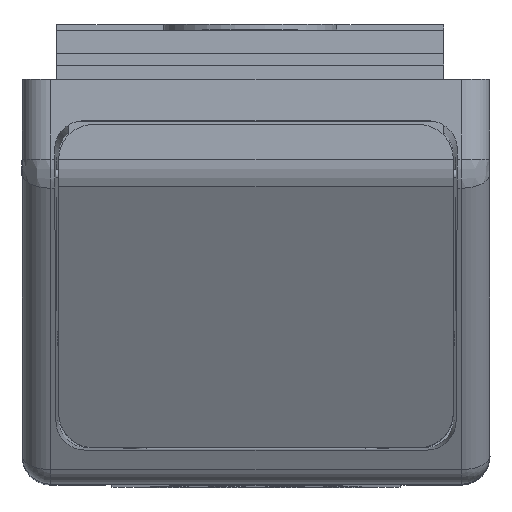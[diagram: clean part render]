
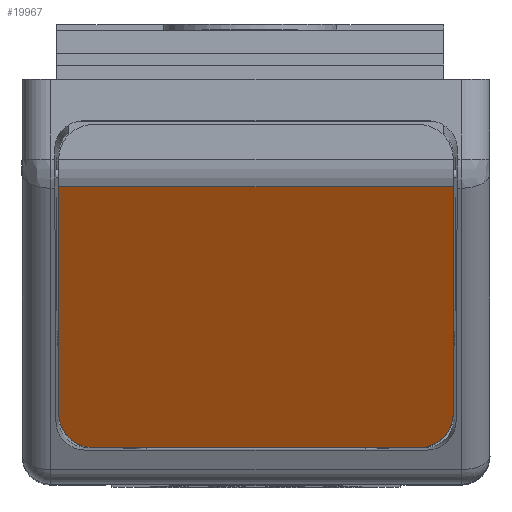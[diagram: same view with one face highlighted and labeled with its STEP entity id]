
A CAD part, top view. The second image highlights one B-rep face of the part: STEP entity #19967.
In plain terms, the highlighted planar face has unit normal (0, -0.5, 0.866).
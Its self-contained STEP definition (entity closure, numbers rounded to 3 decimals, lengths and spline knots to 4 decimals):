
#17678=DIRECTION('',(0.,-0.866,-0.5));
#17679=VECTOR('',#17678,4.5183);
#17680=CARTESIAN_POINT('',(-3.415,2.3679,7.5227));
#17681=LINE('',#17680,#17679);
#17760=CARTESIAN_POINT('',(-3.415,-1.545,5.2636));
#17761=CARTESIAN_POINT('',(-3.415,-1.6383,5.2097));
#17762=CARTESIAN_POINT('',(-3.3761,-1.7912,
5.1214));
#17763=CARTESIAN_POINT('',(-3.2572,-1.9682,
5.0193));
#17764=CARTESIAN_POINT('',(-3.1124,-2.076,
4.957));
#17765=CARTESIAN_POINT('',(-2.9611,-2.1315,
4.9249));
#17766=CARTESIAN_POINT('',(-2.8689,-2.145,4.9172));
#17767=CARTESIAN_POINT('',(-2.815,-2.145,4.9172));
#17779=DIRECTION('',(-1.,0.,0.));
#17780=VECTOR('',#17779,5.63);
#17781=CARTESIAN_POINT('',(2.815,-2.145,4.9172));
#17782=LINE('',#17781,#17780);
#17786=DIRECTION('',(-1.,0.,0.));
#17787=VECTOR('',#17786,6.83);
#17788=CARTESIAN_POINT('',(3.415,2.3679,7.5227));
#17789=LINE('',#17788,#17787);
#18081=DIRECTION('',(0.,0.866,0.5));
#18082=VECTOR('',#18081,4.5183);
#18083=CARTESIAN_POINT('',(3.415,-1.545,5.2636));
#18084=LINE('',#18083,#18082);
#18338=CARTESIAN_POINT('',(2.815,-2.145,4.9172));
#18339=CARTESIAN_POINT('',(2.8689,-2.145,4.9172));
#18340=CARTESIAN_POINT('',(2.9611,-2.1315,
4.9249));
#18341=CARTESIAN_POINT('',(3.1124,-2.076,
4.957));
#18342=CARTESIAN_POINT('',(3.2572,-1.9682,
5.0193));
#18343=CARTESIAN_POINT('',(3.3761,-1.7912,
5.1214));
#18344=CARTESIAN_POINT('',(3.415,-1.6383,5.2097));
#18345=CARTESIAN_POINT('',(3.415,-1.545,5.2636));
#19557=CARTESIAN_POINT('',(-3.415,2.3679,7.5227));
#19558=VERTEX_POINT('',#19557);
#19559=CARTESIAN_POINT('',(-3.415,-1.545,5.2636));
#19560=VERTEX_POINT('',#19559);
#19571=VERTEX_POINT('',#17767);
#19572=CARTESIAN_POINT('',(3.415,2.3679,7.5227));
#19573=VERTEX_POINT('',#19572);
#19574=CARTESIAN_POINT('',(3.415,-1.545,5.2636));
#19575=VERTEX_POINT('',#19574);
#19576=VERTEX_POINT('',#18338);
#19950=CARTESIAN_POINT('',(4.05,2.6,7.6567));
#19951=DIRECTION('',(0.,-0.5,0.866));
#19952=DIRECTION('',(0.,-0.866,-0.5));
#19953=AXIS2_PLACEMENT_3D('',#19950,#19951,#19952);
#19954=PLANE('',#19953);
#19955=ORIENTED_EDGE('',*,*,#19943,.F.);
#19956=ORIENTED_EDGE('',*,*,#19889,.F.);
#19958=ORIENTED_EDGE('',*,*,#19957,.F.);
#19960=ORIENTED_EDGE('',*,*,#19959,.F.);
#19962=ORIENTED_EDGE('',*,*,#19961,.F.);
#19964=ORIENTED_EDGE('',*,*,#19963,.T.);
#19965=EDGE_LOOP('',(#19955,#19956,#19958,#19960,#19962,#19964));
#19966=FACE_OUTER_BOUND('',#19965,.F.);
#17768=B_SPLINE_CURVE_WITH_KNOTS('',3,(#17760,#17761,#17762,#17763,#17764,
#17765,#17766,#17767),.UNSPECIFIED.,.F.,.F.,(4,1,1,1,1,4),(0.,0.25,0.5,
0.75,0.875,1.),.UNSPECIFIED.);
#18346=B_SPLINE_CURVE_WITH_KNOTS('',3,(#18338,#18339,#18340,#18341,#18342,
#18343,#18344,#18345),.UNSPECIFIED.,.F.,.F.,(4,1,1,1,1,4),(0.,0.125,0.25,
0.5,0.75,1.),.UNSPECIFIED.);
#19889=EDGE_CURVE('',#19558,#19560,#17681,.T.);
#19943=EDGE_CURVE('',#19560,#19571,#17768,.T.);
#19957=EDGE_CURVE('',#19573,#19558,#17789,.T.);
#19959=EDGE_CURVE('',#19575,#19573,#18084,.T.);
#19961=EDGE_CURVE('',#19576,#19575,#18346,.T.);
#19963=EDGE_CURVE('',#19576,#19571,#17782,.T.);
#19967=ADVANCED_FACE('',(#19966),#19954,.T.);
